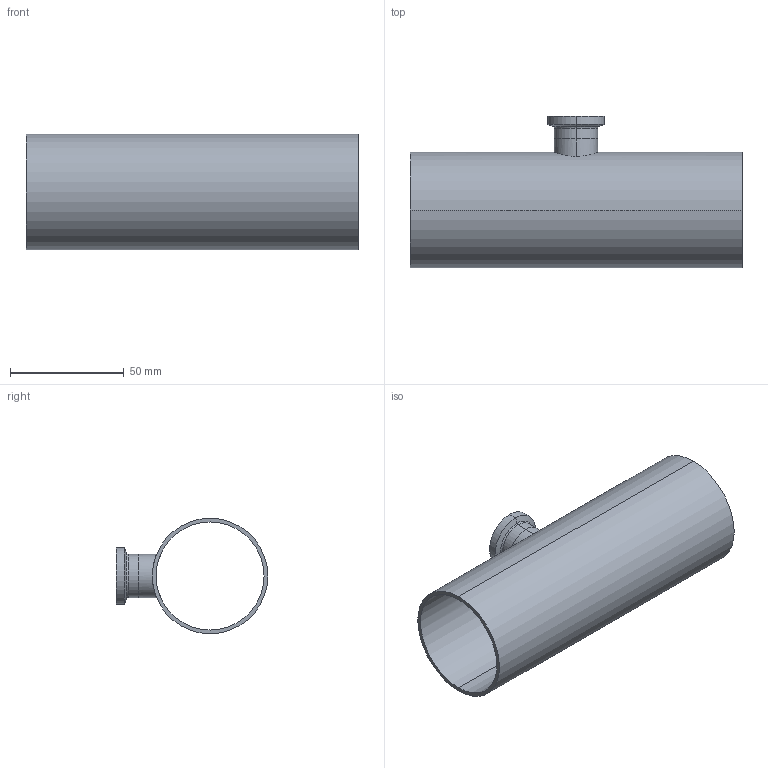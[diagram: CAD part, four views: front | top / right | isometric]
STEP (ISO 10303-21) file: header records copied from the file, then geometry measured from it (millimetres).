
FILE_DESCRIPTION (( 'STEP AP214' ), '1' );
FILE_NAME ('TE7RWWCS6L2.0x.75-...STEP', '2016-05-23T11:58:39', ( 'eran' ), ( '' ), 'SwSTEP 2.0', 'SolidWorks 2016', '' );
FILE_SCHEMA (( 'AUTOMOTIVE_DESIGN' ));
Length unit declared in the file: millimetre
Products named in the file (1): TE7RWWCS6L2.0x.75-..
Bounding box: 146 x 66.7 x 50.8 mm (x, y, z)
Volume: 38957.3 mm3; surface area: 47803 mm2
Topology: 2 solids, 2 shells, 34 faces, 72 edges, 44 vertices
Faces by surface type: cylinder 16, bspline 8, plane 6, cone 4
Entity records: 1243 total; most frequent: CARTESIAN_POINT 467, DIRECTION 162, ORIENTED_EDGE 144, EDGE_CURVE 72, AXIS2_PLACEMENT_3D 71, CIRCLE 44, VERTEX_POINT 44, EDGE_LOOP 42
